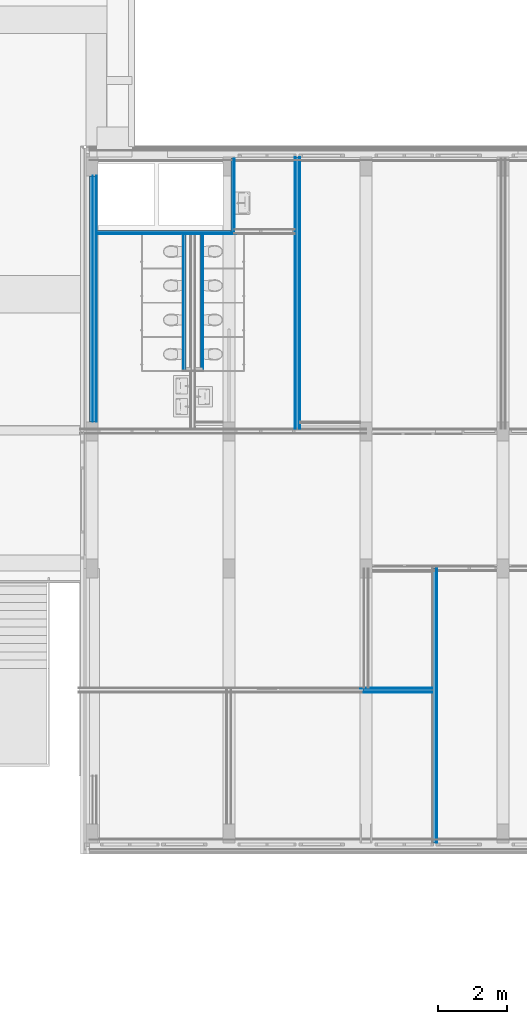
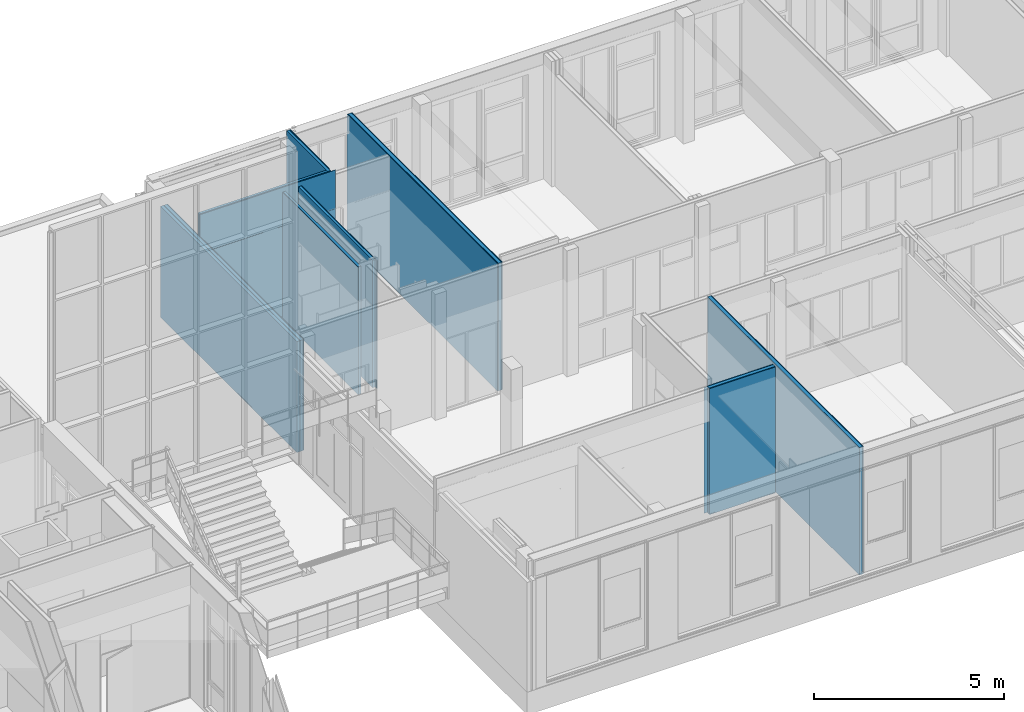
# One storey, part 52 of 94: 30 building element parts, 8 elements without a shape of their own.
"""IFC2X3 building model written with IfcOpenShell, lengths in millimetres."""

import ifcopenshell
import ifcopenshell.guid

model = None  # the IFC model being written
_history = None  # IfcOwnerHistory: only IFC2X3 demands one
_inside = {}  # id of a spatial element -> (the spatial element, [elements in it])
_under = {}  # id of a project, library or spatial element -> (it, [spatial elements below it])
_declared = {}  # id of a project -> (the project, [libraries it declares])
_typed = {}  # id of a type object -> (the type object, [elements of that type])
_made_of = {}  # id of a material, layer set ... -> (it, [elements and type objects made of it])


def new_model(schema):
    """Start an empty IFC model of exactly this schema.

    Asked for "IFC4X3", IfcOpenShell would pick the latest addendum, in which some entities
    have other attributes; the version numbers below select the first issue.
    IFC2X3 requires an IfcOwnerHistory on every rooted entity: one is made here for all.
    """
    global model, _history
    if schema == "IFC4X3":
        model = ifcopenshell.file(schema_version=(4, 3, 0, 0))
    else:
        model = ifcopenshell.file(schema=schema)
    _inside.clear()
    _under.clear()
    _declared.clear()
    _typed.clear()
    _made_of.clear()
    _history = None
    if model.schema == "IFC2X3":
        org = make("IfcOrganization", Name="unknown")
        user = make(
            "IfcPersonAndOrganization",
            ThePerson=make("IfcPerson", FamilyName="unknown"),
            TheOrganization=org,
        )
        app = make(
            "IfcApplication",
            ApplicationDeveloper=org,
            Version="unknown",
            ApplicationFullName="unknown",
            ApplicationIdentifier="unknown",
        )
        _history = make(
            "IfcOwnerHistory",
            OwningUser=user,
            OwningApplication=app,
            ChangeAction="ADDED",
            CreationDate=0,
        )
    return model


def make(cls, **values):
    """One entity of the class cls with the attributes given. An attribute that is None is left unset."""
    return model.create_entity(
        cls, **{name: value for name, value in values.items() if value is not None}
    )


def entity(cls, *values):
    """Any entity or typed value of the class cls, its attributes in the order of the schema. None: left unset."""
    e = model.create_entity(cls)
    for i, value in enumerate(values):
        if value is not None:
            e[i] = value
    return e


def rooted(cls, **values):
    """An entity with a GlobalId (a new one), such as an element, a storey or a relation."""
    return make(cls, GlobalId=ifcopenshell.guid.new(), OwnerHistory=_history, **values)


def si_unit(unit_type, name, prefix=None):
    """IfcSIUnit, for example si_unit("LENGTHUNIT", "METRE", prefix="MILLI")."""
    return make("IfcSIUnit", UnitType=unit_type, Prefix=prefix, Name=name)


def converted_unit(unit_type, name, factor, base, dimensions=None, offset=None):
    """IfcConversionBasedUnit, such as the inch: factor (a typed value) times the base unit."""
    return make(
        "IfcConversionBasedUnit"
        if offset is None
        else "IfcConversionBasedUnitWithOffset",
        ConversionOffset=offset,
        Dimensions=None
        if dimensions is None
        else entity("IfcDimensionalExponents", *dimensions),
        UnitType=unit_type,
        Name=name,
        ConversionFactor=make(
            "IfcMeasureWithUnit", ValueComponent=factor, UnitComponent=base
        ),
    )


def derived_unit(unit_type, elements):
    """IfcDerivedUnit: a product of units, each with its exponent."""
    return make(
        "IfcDerivedUnit",
        Elements=[
            make("IfcDerivedUnitElement", Unit=unit, Exponent=power)
            for unit, power in elements
        ],
        UnitType=unit_type,
    )


def money_unit(currency):
    """IfcMonetaryUnit."""
    return make("IfcMonetaryUnit", Currency=currency)


def assignment(units):
    """IfcUnitAssignment: the units of a project."""
    return None if units is None else make("IfcUnitAssignment", Units=units)


def point(xyz):
    """IfcCartesianPoint."""
    return None if xyz is None else make("IfcCartesianPoint", Coordinates=xyz)


def direction(xyz):
    """IfcDirection."""
    return None if xyz is None else make("IfcDirection", DirectionRatios=xyz)


def frame(location, z_axis=None, x_axis=None):
    """IfcAxis2Placement3D, a coordinate frame: its origin and axes. An axis left out is left unset."""
    return make(
        "IfcAxis2Placement3D",
        Location=point(location),
        Axis=direction(z_axis),
        RefDirection=direction(x_axis),
    )


def origin_with_axes():
    """The frame at (0, 0, 0) with the z axis (0, 0, 1) and the x axis (1, 0, 0) written out."""
    return frame((0.0, 0.0, 0.0), z_axis=(0.0, 0.0, 1.0), x_axis=(1.0, 0.0, 0.0))


def place(relative_to, where):
    """IfcLocalPlacement: puts the frame where relative to a parent placement (None: the world)."""
    return make(
        "IfcLocalPlacement", PlacementRelTo=relative_to, RelativePlacement=where
    )


def context(
    kind, dimensions, precision=None, world=None, true_north=None, identifier=None
):
    """IfcGeometricRepresentationContext, for example the 3D "Model" context."""
    return make(
        "IfcGeometricRepresentationContext",
        ContextIdentifier=identifier,
        ContextType=kind,
        CoordinateSpaceDimension=dimensions,
        Precision=precision,
        WorldCoordinateSystem=world,
        TrueNorth=true_north,
    )


def subcontext(parent, identifier, kind, view, scale=None):
    """IfcGeometricRepresentationSubContext, for example "Body" below "Model"."""
    return make(
        "IfcGeometricRepresentationSubContext",
        ContextIdentifier=identifier,
        ContextType=kind,
        ParentContext=parent,
        TargetScale=scale,
        TargetView=view,
    )


def project(units=None, contexts=None):
    """IfcProject with its units and contexts."""
    return rooted(
        "IfcProject",
        Name="project",
        RepresentationContexts=contexts,
        UnitsInContext=assignment(units),
    )


def spatial(cls, under=None, at=None, **own):
    """A site, building, storey or space (cls), placed at a placement, below another one or the project."""
    s = rooted(cls, ObjectPlacement=at, **own)
    if under is not None:
        _under.setdefault(under.id(), (under, []))[1].append(s)
    return s


def faces_of(points, faces, orient=None, outer=None):
    """IfcFace entities. A face is a list of loops; a loop is a list of indices into points, from 0.

    orient and outer hold one flag for each loop. By default every Orientation is true, the
    first loop of a face is its IfcFaceOuterBound and the others are IfcFaceBound.
    """
    made = []
    for i, loops in enumerate(faces):
        bounds = []
        for j, loop in enumerate(loops):
            is_outer = j == 0 if outer is None else outer[i][j]
            bounds.append(
                make(
                    "IfcFaceOuterBound" if is_outer else "IfcFaceBound",
                    Bound=make("IfcPolyLoop", Polygon=[points[k] for k in loop]),
                    Orientation=True if orient is None else orient[i][j],
                )
            )
        made.append(make("IfcFace", Bounds=bounds))
    return made


def faceted_brep(points, faces, orient=None, outer=None, voids=None):
    """IfcFacetedBrep: a solid bounded by flat faces; with voids (closed shells), ...WithVoids."""
    shared = [point(p) for p in points]
    hull = make("IfcClosedShell", CfsFaces=faces_of(shared, faces, orient, outer))
    if voids is None:
        return make("IfcFacetedBrep", Outer=hull)
    return make(
        "IfcFacetedBrepWithVoids",
        Outer=hull,
        Voids=[
            make(cls, CfsFaces=faces_of(shared, fs, o, b)) for cls, fs, o, b in voids
        ],
    )


def shape(context_of_items, identifier, shape_type, items):
    """IfcShapeRepresentation: the items that make up one representation, for example the "Body"."""
    return make(
        "IfcShapeRepresentation",
        ContextOfItems=context_of_items,
        RepresentationIdentifier=identifier,
        RepresentationType=shape_type,
        Items=items,
    )


def material(Name=None, Category=None):
    """IfcMaterial."""
    return make("IfcMaterial", Name=Name, Category=Category)


def made_of(thing, what):
    """Note that an element or type object is made of a material, layer set ...; save() writes the relation."""
    if what is not None:
        _made_of.setdefault(what.id(), (what, []))[1].append(thing)
    return thing


def type_object(cls, material=None, **own):
    """A type object (cls), such as IfcWallType, which elements share."""
    return made_of(rooted(cls, **own), material)


def element(
    cls,
    number,
    at=None,
    inside=None,
    cuts=None,
    type_object=None,
    material=None,
    context=None,
    identifier="Body",
    shape_type=None,
    held_by="IfcProductDefinitionShape",
    body=None,
    shapes=None,
    **own,
):
    """One element of the class cls, such as IfcWall. Its Tag is "e" and its number.

    at: its placement. inside: the storey or other place that contains it. cuts: it is an
    opening in that element (IfcRelVoidsElement). A single representation is given by context,
    identifier, shape_type and body (its items); several are given by shapes. held_by: the class
    of the entity that holds the representations. save() writes the other relations.
    """
    e = rooted(cls, Tag="e%d" % number, ObjectPlacement=at, **own)
    if body is not None:
        shapes = [shape(context, identifier, shape_type, body)]
    if shapes is not None:
        e.Representation = make(held_by, Representations=shapes)
    if inside is not None:
        _inside.setdefault(inside.id(), (inside, []))[1].append(e)
    if cuts is not None:
        rooted(
            "IfcRelVoidsElement", RelatingBuildingElement=cuts, RelatedOpeningElement=e
        )
    if type_object is not None:
        _typed.setdefault(type_object.id(), (type_object, []))[1].append(e)
    return made_of(e, material)


def aggregate(whole, parts):
    """IfcRelAggregates: a whole, such as a stair, and the parts it consists of."""
    return rooted("IfcRelAggregates", RelatingObject=whole, RelatedObjects=parts)


def save(model, path):
    """Write the relations noted so far, then the file.

    IfcRelAggregates (storeys below a building ...), IfcRelContainedInSpatialStructure (elements
    in a storey), IfcRelDefinesByType, IfcRelAssociatesMaterial and IfcRelDeclares: one each for
    every whole, place, type object, material and project.
    """
    for whole, parts in _under.values():
        aggregate(whole, parts)
    for where, things in _inside.values():
        rooted(
            "IfcRelContainedInSpatialStructure",
            RelatedElements=things,
            RelatingStructure=where,
        )
    for kind, things in _typed.values():
        rooted("IfcRelDefinesByType", RelatedObjects=things, RelatingType=kind)
    for what, things in _made_of.values():
        rooted("IfcRelAssociatesMaterial", RelatedObjects=things, RelatingMaterial=what)
    for by, libraries in _declared.values():
        rooted("IfcRelDeclares", RelatingContext=by, RelatedDefinitions=libraries)
    model.write(path)


model = new_model("IFC2X3")

# Units and contexts
model_context = context("Model", 3, precision=0.01, world=origin_with_axes(), true_north=direction((0.0, 1.0)))
body_context = subcontext(model_context, "Body", "Model", "MODEL_VIEW")
ifc_project = project(units=[si_unit("LENGTHUNIT", "METRE", prefix="MILLI"), si_unit("AREAUNIT", "SQUARE_METRE"), si_unit("VOLUMEUNIT", "CUBIC_METRE"), converted_unit("PLANEANGLEUNIT", "DEGREE", entity("IfcPlaneAngleMeasure", 0.0174532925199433), si_unit("PLANEANGLEUNIT", "RADIAN"), dimensions=[0, 0, 0, 0, 0, 0, 0]), money_unit("EUR"), converted_unit("TIMEUNIT", "Year", entity("IfcTimeMeasure", 31557600.0), si_unit("TIMEUNIT", "SECOND"), dimensions=[0, 0, 1, 0, 0, 0, 0]), si_unit("MASSUNIT", "GRAM", prefix="KILO"), si_unit("THERMODYNAMICTEMPERATUREUNIT", "DEGREE_CELSIUS"), si_unit("LUMINOUSINTENSITYUNIT", "LUMEN"), si_unit("ENERGYUNIT", "JOULE", prefix="MEGA"), derived_unit("THERMALCONDUCTANCEUNIT", [(si_unit("POWERUNIT", "WATT"), 1), (si_unit("LENGTHUNIT", "METRE"), -1), (si_unit("THERMODYNAMICTEMPERATUREUNIT", "KELVIN"), -1)]), derived_unit("SPECIFICHEATCAPACITYUNIT", [(si_unit("ENERGYUNIT", "JOULE"), 1), (si_unit("MASSUNIT", "GRAM", prefix="KILO"), -1), (si_unit("THERMODYNAMICTEMPERATUREUNIT", "KELVIN"), -1)]), derived_unit("MASSDENSITYUNIT", [(si_unit("MASSUNIT", "GRAM", prefix="KILO"), 1), (si_unit("VOLUMEUNIT", "CUBIC_METRE"), -1)])], contexts=[model_context])

# Site, building, storey
site_placement = place(None, origin_with_axes())
site = spatial("IfcSite", under=ifc_project, at=site_placement, Name="<site naam>", CompositionType="ELEMENT")
building_placement = place(site_placement, origin_with_axes())
building = spatial("IfcBuilding", under=site, at=building_placement, Name="<Naam gebouw>", CompositionType="ELEMENT")
storey_placement = place(building_placement, frame((0.0, 0.0, 4250.0), z_axis=(0.0, 0.0, 1.0), x_axis=(1.0, 0.0, 0.0)))
storey = spatial("IfcBuildingStorey", under=building, at=storey_placement, Name="01 1e verdieping", CompositionType="ELEMENT", Elevation=4250.0)

# Wall, building element parts
wall_type_1 = type_object("IfcWallType", Name="MS-01 GF 150 ECO DGS/2.100.2.A 150", PredefinedType="NOTDEFINED")
wall_1_placement = place(storey_placement, frame((17999.93840291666, 19997.99999999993, 0.0), z_axis=(0.0, 0.0, 1.0), x_axis=(0.0, -1.0, 0.0)))
wall_1 = element("IfcWall", 1, at=wall_1_placement, inside=storey, type_object=wall_type_1, Name="22_Binnenwand_MS-01")
ifc_material_1 = material(Name="gipsplaat")
building_element_part_1_placement = place(wall_1_placement, origin_with_axes())
building_element_part_1 = element("IfcBuildingElementPart", 2, at=building_element_part_1_placement, material=ifc_material_1, Name="gipsplaat", context=body_context, shape_type="Brep", body=[
    faceted_brep([(0.0, 50.00000000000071, 4100.0), (0.0, 62.5, 4100.0), (0.0, 62.5, 0.0), (0.0, 50.00000000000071, 0.0), (7922.999999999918, 62.5, 4100.0), (7922.999999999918, 50.00000000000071, 4100.0), (7922.999999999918, 62.5, 0.0), (7922.999999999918, 50.00000000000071, 0.0)], [[[0, 1, 2, 3]], [[4, 1, 0, 5]], [[1, 4, 6, 2]], [[2, 6, 7, 3]], [[5, 0, 3, 7]], [[4, 5, 7, 6]]]),
])
building_element_part_2_placement = place(wall_1_placement, origin_with_axes())
building_element_part_2 = element("IfcBuildingElementPart", 3, at=building_element_part_2_placement, material=ifc_material_1, Name="gipsplaat", context=body_context, shape_type="Brep", body=[
    faceted_brep([(0.0, 62.5, 4100.0), (0.0, 74.99999999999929, 4100.0), (0.0, 74.99999999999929, 0.0), (0.0, 62.5, 0.0), (7922.999999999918, 74.99999999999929, 4100.0), (7922.999999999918, 62.5, 4100.0), (7922.999999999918, 74.99999999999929, 0.0), (7922.999999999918, 62.5, 0.0)], [[[0, 1, 2, 3]], [[4, 1, 0, 5]], [[1, 4, 6, 2]], [[2, 6, 7, 3]], [[5, 0, 3, 7]], [[4, 5, 7, 6]]]),
])
ifc_material_2 = material(Name="isolatie_steenwol LSW")
building_element_part_3_placement = place(wall_1_placement, origin_with_axes())
building_element_part_3 = element("IfcBuildingElementPart", 4, at=building_element_part_3_placement, material=ifc_material_2, Name="isolatie_steenwol LSW", context=body_context, shape_type="Brep", body=[
    faceted_brep([(0.0, -50.00000000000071, 4100.0), (0.0, 50.00000000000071, 4100.0), (0.0, 50.00000000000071, 0.0), (0.0, -50.00000000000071, 0.0), (7922.999999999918, 50.00000000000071, 4100.0), (7922.999999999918, -50.00000000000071, 4100.0), (7922.999999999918, 50.00000000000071, 0.0), (7922.999999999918, -50.00000000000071, 0.0)], [[[0, 1, 2, 3]], [[4, 1, 0, 5]], [[1, 4, 6, 2]], [[2, 6, 7, 3]], [[5, 0, 3, 7]], [[4, 5, 7, 6]]]),
])
building_element_part_4_placement = place(wall_1_placement, origin_with_axes())
building_element_part_4 = element("IfcBuildingElementPart", 5, at=building_element_part_4_placement, material=ifc_material_1, Name="gipsplaat", context=body_context, shape_type="Brep", body=[
    faceted_brep([(0.0, -74.99999999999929, 4100.0), (0.0, -62.5, 4100.0), (0.0, -62.5, 0.0), (0.0, -74.99999999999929, 0.0), (7922.999999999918, -62.5, 4100.0), (7922.999999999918, -74.99999999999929, 4100.0), (7922.999999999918, -62.5, 0.0), (7922.999999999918, -74.99999999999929, 0.0)], [[[0, 1, 2, 3]], [[4, 1, 0, 5]], [[1, 4, 6, 2]], [[2, 6, 7, 3]], [[5, 0, 3, 7]], [[4, 5, 7, 6]]]),
])
building_element_part_5_placement = place(wall_1_placement, origin_with_axes())
building_element_part_5 = element("IfcBuildingElementPart", 6, at=building_element_part_5_placement, material=ifc_material_1, Name="gipsplaat", context=body_context, shape_type="Brep", body=[
    faceted_brep([(0.0, -62.5, 4100.0), (0.0, -50.00000000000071, 4100.0), (0.0, -50.00000000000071, 0.0), (0.0, -62.5, 0.0), (7922.999999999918, -50.00000000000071, 4100.0), (7922.999999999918, -62.5, 4100.0), (7922.999999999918, -50.00000000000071, 0.0), (7922.999999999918, -62.5, 0.0)], [[[0, 1, 2, 3]], [[4, 1, 0, 5]], [[1, 4, 6, 2]], [[2, 6, 7, 3]], [[5, 0, 3, 7]], [[4, 5, 7, 6]]]),
])
aggregate(wall_1, [building_element_part_1, building_element_part_2, building_element_part_3, building_element_part_4, building_element_part_5])

wall_2_placement = place(storey_placement, frame((22000.00660805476, 4524.999967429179, 0.0), z_axis=(0.0, 0.0, 1.0), x_axis=(-1.0, 0.0, 0.0)))
wall_2 = element("IfcWall", 7, at=wall_2_placement, inside=storey, type_object=wall_type_1, Name="22_Binnenwand_MS-01")
building_element_part_6_placement = place(wall_2_placement, origin_with_axes())
building_element_part_6 = element("IfcBuildingElementPart", 8, at=building_element_part_6_placement, material=ifc_material_1, Name="gipsplaat", context=body_context, shape_type="Brep", body=[
    faceted_brep([(2075.006608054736, 137.5000000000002, 19.99999999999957), (75.00021473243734, 137.5000000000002, 19.99999999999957), (75.00019805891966, 137.5000000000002, 0.0), (2075.006608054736, 137.5000000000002, 0.0), (75.00021473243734, 150.0000000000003, 19.99999999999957), (2075.006608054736, 149.9516873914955, 19.99999999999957), (2075.006608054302, 149.9999999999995, 19.99999999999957), (75.0002159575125, 150.0000000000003, 0.0), (2075.006608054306, 149.9999999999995, 0.0), (2075.006608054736, 149.9516873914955, 0.0)], [[[0, 1, 2, 3]], [[4, 1, 0, 5, 6]], [[1, 4, 7, 2]], [[8, 9, 3, 2, 7]], [[5, 0, 3, 9]], [[6, 5, 9, 8]], [[4, 6, 8, 7]]]),
    faceted_brep([(75.00021473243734, 150.0000000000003, 22.99999999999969), (75.00021473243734, 137.5000000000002, 22.99999999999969), (75.00019805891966, 137.5000000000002, 4050.000000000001), (75.0002159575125, 150.0000000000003, 4050.000000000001), (2075.006608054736, 137.5000000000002, 22.99999999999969), (2075.006608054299, 149.9999999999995, 22.99999999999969), (2075.006608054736, 149.9516873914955, 22.99999999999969), (2075.006608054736, 137.5000000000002, 4050.000000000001), (2075.006608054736, 149.9516873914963, 4050.000000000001), (2075.006608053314, 150.0000000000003, 4050.000000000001)], [[[0, 1, 2, 3]], [[4, 1, 0, 5, 6]], [[1, 4, 7, 2]], [[2, 7, 8, 9, 3]], [[5, 0, 3, 9]], [[6, 5, 9, 8]], [[4, 6, 8, 7]]]),
])
building_element_part_7_placement = place(wall_2_placement, origin_with_axes())
building_element_part_7 = element("IfcBuildingElementPart", 9, at=building_element_part_7_placement, material=ifc_material_1, Name="gipsplaat", context=body_context, shape_type="Brep", body=[
    faceted_brep([(2075.006608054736, 125.0, 19.99999999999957), (75.00021473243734, 125.0, 19.99999999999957), (75.00018016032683, 125.0, 0.0), (2075.006608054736, 125.0, 0.0), (75.00021473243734, 137.5000000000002, 19.99999999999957), (2075.006608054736, 137.5000000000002, 19.99999999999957), (75.00019805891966, 137.5000000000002, 0.0), (2075.006608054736, 137.5000000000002, 0.0)], [[[0, 1, 2, 3]], [[4, 1, 0, 5]], [[1, 4, 6, 2]], [[6, 7, 3, 2]], [[5, 0, 3, 7]], [[4, 5, 7, 6]]]),
    faceted_brep([(75.00021473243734, 137.5000000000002, 22.99999999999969), (75.00021473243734, 125.0, 22.99999999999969), (75.00018016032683, 125.0, 4050.000000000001), (75.00019805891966, 137.5000000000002, 4050.000000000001), (2075.006608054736, 125.0, 22.99999999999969), (2075.006608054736, 137.5000000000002, 22.99999999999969), (2075.006608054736, 125.0, 4050.000000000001), (2075.006608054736, 137.5000000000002, 4050.000000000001)], [[[0, 1, 2, 3]], [[4, 1, 0, 5]], [[1, 4, 6, 2]], [[6, 7, 3, 2]], [[5, 0, 3, 7]], [[4, 5, 7, 6]]]),
])
building_element_part_8_placement = place(wall_2_placement, origin_with_axes())
building_element_part_8 = element("IfcBuildingElementPart", 10, at=building_element_part_8_placement, material=ifc_material_1, Name="gipsplaat", context=body_context, shape_type="Brep", body=[
    faceted_brep([(2075.006608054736, 12.50000000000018, 19.99999999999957), (75.00021473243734, 12.50000000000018, 19.99999999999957), (75.00001907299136, 12.50000000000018, 0.0), (2075.006608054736, 12.50000000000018, 0.0), (75.00021473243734, 25.00000000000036, 19.99999999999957), (2075.006608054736, 24.95166142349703, 19.99999999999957), (2175.006608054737, 24.88720306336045, 19.99999999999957), (2175.006608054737, 24.99999999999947, 19.99999999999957), (75.0000369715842, 25.00000000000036, 0.0), (2175.006608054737, 24.88720306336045, 0.0), (2075.006608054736, 24.95166142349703, 0.0), (2175.006608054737, 24.99999999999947, 0.0)], [[[0, 1, 2, 3]], [[4, 1, 0, 5, 6, 7]], [[1, 4, 8, 2]], [[9, 10, 3, 2, 8, 11]], [[5, 0, 3, 10]], [[6, 5, 10, 9]], [[7, 6, 9, 11]], [[4, 7, 11, 8]]]),
    faceted_brep([(75.00021473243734, 25.00000000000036, 22.99999999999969), (75.00021473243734, 12.50000000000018, 22.99999999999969), (75.00001907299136, 12.50000000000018, 4050.000000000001), (75.0000369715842, 25.00000000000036, 4050.000000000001), (2075.006608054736, 12.50000000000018, 22.99999999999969), (2175.006608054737, 24.99999999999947, 22.99999999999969), (2175.006608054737, 24.88720306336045, 22.99999999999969), (2075.006608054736, 24.95166142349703, 22.99999999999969), (2075.006608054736, 12.50000000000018, 4050.000000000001), (2075.006608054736, 24.95166142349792, 4050.000000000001), (2175.006608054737, 24.88720306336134, 4050.000000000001), (2175.006608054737, 25.00000000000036, 4050.000000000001)], [[[0, 1, 2, 3]], [[4, 1, 0, 5, 6, 7]], [[1, 4, 8, 2]], [[8, 9, 10, 11, 3, 2]], [[5, 0, 3, 11]], [[6, 5, 11, 10]], [[7, 6, 10, 9]], [[4, 7, 9, 8]]]),
])
building_element_part_9_placement = place(wall_2_placement, origin_with_axes())
building_element_part_9 = element("IfcBuildingElementPart", 11, at=building_element_part_9_placement, material=ifc_material_2, Name="isolatie_steenwol LSW", context=body_context, shape_type="Brep", body=[
    faceted_brep([(2075.006608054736, 24.99999999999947, 19.99999999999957), (75.00021473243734, 25.00000000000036, 19.99999999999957), (75.0000369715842, 25.00000000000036, 0.0), (2075.006608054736, 24.99999999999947, 0.0), (75.00021473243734, 125.0, 19.99999999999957), (2075.006608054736, 125.0, 19.99999999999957), (75.00018016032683, 125.0, 0.0), (2075.006608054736, 125.0, 0.0)], [[[0, 1, 2, 3]], [[4, 1, 0, 5]], [[1, 4, 6, 2]], [[7, 3, 2, 6]], [[5, 0, 3, 7]], [[4, 5, 7, 6]]]),
    faceted_brep([(75.00021473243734, 125.0, 22.99999999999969), (75.00021473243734, 25.00000000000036, 22.99999999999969), (75.0000369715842, 25.00000000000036, 4050.000000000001), (75.00018016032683, 125.0, 4050.000000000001), (2075.006608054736, 24.99999999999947, 22.99999999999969), (2075.006608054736, 125.0, 22.99999999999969), (2075.006608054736, 25.00000000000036, 4050.000000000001), (2075.006608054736, 125.0, 4050.000000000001)], [[[0, 1, 2, 3]], [[4, 1, 0, 5]], [[1, 4, 6, 2]], [[2, 6, 7, 3]], [[5, 0, 3, 7]], [[4, 5, 7, 6]]]),
])
building_element_part_10_placement = place(wall_2_placement, origin_with_axes())
building_element_part_10 = element("IfcBuildingElementPart", 12, at=building_element_part_10_placement, material=ifc_material_1, Name="gipsplaat", context=body_context, shape_type="Brep", body=[
    faceted_brep([(1925.006608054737, 0.0, 0.0), (1925.006608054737, 0.0, 19.99999999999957), (75.00021473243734, 0.0, 19.99999999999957), (75.00000117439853, 0.0, 0.0), (1925.006608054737, 5.398728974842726, 0.0), (1925.006608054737, 5.398728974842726, 19.99999999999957), (2075.006608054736, 12.50000000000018, 19.99999999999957), (75.00021473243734, 12.50000000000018, 19.99999999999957), (2075.006608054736, 5.398728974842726, 19.99999999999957), (75.00001907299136, 12.50000000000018, 0.0), (2075.006608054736, 12.50000000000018, 0.0), (2075.006608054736, 5.398728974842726, 0.0)], [[[0, 1, 2, 3]], [[4, 5, 1, 0]], [[6, 7, 2, 1, 5, 8]], [[3, 2, 7, 9]], [[10, 11, 4, 0, 3, 9]], [[11, 8, 5, 4]], [[9, 7, 6, 10]], [[10, 6, 8, 11]]]),
    faceted_brep([(75.00001907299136, 12.50000000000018, 4050.000000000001), (75.00021473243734, 12.50000000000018, 22.99999999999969), (75.00021473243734, 0.0, 22.99999999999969), (75.00000117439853, 0.0, 4050.000000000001), (2075.006608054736, 12.50000000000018, 4050.000000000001), (2075.006608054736, 12.50000000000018, 22.99999999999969), (1925.006608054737, 5.398728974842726, 22.99999999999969), (1925.006608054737, 0.0, 22.99999999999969), (2075.006608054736, 5.398728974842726, 22.99999999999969), (1925.006608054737, 0.0, 4050.000000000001), (1925.006608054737, 5.398728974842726, 4050.000000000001), (2075.006608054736, 5.398728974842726, 4050.000000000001)], [[[0, 1, 2, 3]], [[4, 5, 1, 0]], [[6, 7, 2, 1, 5, 8]], [[3, 2, 7, 9]], [[3, 9, 10, 11, 4, 0]], [[11, 8, 5, 4]], [[9, 7, 6, 10]], [[10, 6, 8, 11]]]),
])
aggregate(wall_2, [building_element_part_6, building_element_part_7, building_element_part_8, building_element_part_9, building_element_part_10])

wall_3_placement = place(storey_placement, frame((22000.01157608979, 7995.39108428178, 0.0), z_axis=(0.0, 0.0, 1.0), x_axis=(-1.431887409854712e-06, -0.9999999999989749, 0.0)))
wall_3 = element("IfcWall", 13, at=wall_3_placement, inside=storey, type_object=wall_type_1, Name="22_Binnenwand_MS-01")
building_element_part_11_placement = place(wall_3_placement, origin_with_axes())
building_element_part_11 = element("IfcBuildingElementPart", 14, at=building_element_part_11_placement, material=ifc_material_1, Name="gipsplaat", context=body_context, shape_type="Brep", body=[
    faceted_brep([(0.0, 62.5, 4100.0), (0.0, 74.99999999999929, 4100.0), (0.0, 74.99999999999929, 0.0), (0.0, 62.5, 0.0), (7995.391083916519, 74.99999999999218, 4100.0), (7995.391083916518, 62.49999999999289, 4100.0), (7995.391083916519, 74.99999999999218, 0.0), (7995.391083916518, 62.49999999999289, 0.0)], [[[0, 1, 2, 3]], [[4, 1, 0, 5]], [[1, 4, 6, 2]], [[2, 6, 7, 3]], [[5, 0, 3, 7]], [[4, 5, 7, 6]]]),
])
building_element_part_12_placement = place(wall_3_placement, origin_with_axes())
building_element_part_12 = element("IfcBuildingElementPart", 15, at=building_element_part_12_placement, material=ifc_material_2, Name="isolatie_steenwol LSW", context=body_context, shape_type="Brep", body=[
    faceted_brep([(0.0, -50.00000000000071, 4100.0), (0.0, 50.00000000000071, 4100.0), (0.0, 50.00000000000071, 0.0), (0.0, -50.00000000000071, 0.0), (7995.391083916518, 49.99999999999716, 4100.0), (7995.391083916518, -50.00000000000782, 4100.0), (7995.391083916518, 49.99999999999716, 0.0), (7995.391083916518, -50.00000000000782, 0.0)], [[[0, 1, 2, 3]], [[4, 1, 0, 5]], [[1, 4, 6, 2]], [[2, 6, 7, 3]], [[5, 0, 3, 7]], [[4, 5, 7, 6]]]),
])
building_element_part_13_placement = place(wall_3_placement, origin_with_axes())
building_element_part_13 = element("IfcBuildingElementPart", 16, at=building_element_part_13_placement, material=ifc_material_1, Name="gipsplaat", context=body_context, shape_type="Brep", body=[
    faceted_brep([(0.0, 50.00000000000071, 4100.0), (0.0, 62.5, 4100.0), (0.0, 62.5, 0.0), (0.0, 50.00000000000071, 0.0), (7995.391083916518, 62.49999999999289, 4100.0), (7995.391083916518, 49.99999999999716, 4100.0), (7995.391083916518, 62.49999999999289, 0.0), (7995.391083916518, 49.99999999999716, 0.0)], [[[0, 1, 2, 3]], [[4, 1, 0, 5]], [[1, 4, 6, 2]], [[2, 6, 7, 3]], [[5, 0, 3, 7]], [[4, 5, 7, 6]]]),
])
aggregate(wall_3, [building_element_part_11, building_element_part_12, building_element_part_13])

wall_type_2 = type_object("IfcWallType", Name="MS-03 GF 100 HTT DGS V/100.2 100", PredefinedType="NOTDEFINED")
wall_4_placement = place(storey_placement, frame((14750.00000000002, 17750.0, 0.0), z_axis=(0.0, 0.0, 1.0), x_axis=(0.0, -1.0, 0.0)))
wall_4 = element("IfcWall", 17, at=wall_4_placement, inside=storey, type_object=wall_type_2, Name="22_Binnenwand_MS-03")
building_element_part_14_placement = place(wall_4_placement, origin_with_axes())
building_element_part_14 = element("IfcBuildingElementPart", 18, at=building_element_part_14_placement, material=ifc_material_2, Name="isolatie_steenwol LSW", context=body_context, shape_type="Brep", body=[
    faceted_brep([(0.0, -74.99999999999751, 4100.0), (0.0, 0.0, 4100.0), (0.0, 0.0, 0.0), (0.0, -74.99999999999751, 0.0), (3975.211905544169, 0.0, 4100.0), (3975.243496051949, -75.00000000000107, 4100.0), (3975.211905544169, 0.0, 0.0), (3975.243496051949, -75.00000000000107, 0.0)], [[[0, 1, 2, 3]], [[4, 1, 0, 5]], [[1, 4, 6, 2]], [[2, 6, 7, 3]], [[5, 0, 3, 7]], [[4, 5, 7, 6]]]),
])
building_element_part_15_placement = place(wall_4_placement, origin_with_axes())
building_element_part_15 = element("IfcBuildingElementPart", 19, at=building_element_part_15_placement, material=ifc_material_1, Name="gipsplaat", context=body_context, shape_type="Brep", body=[
    faceted_brep([(0.0, -87.50000000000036, 4100.0), (0.0, -74.99999999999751, 4100.0), (0.0, -74.99999999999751, 0.0), (0.0, -87.50000000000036, 0.0), (3987.743497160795, -75.00000000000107, 4100.0), (3987.748762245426, -87.50000000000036, 4100.0), (3987.743497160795, -75.00000000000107, 0.0), (3987.748762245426, -87.50000000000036, 0.0)], [[[0, 1, 2, 3]], [[4, 1, 0, 5]], [[1, 4, 6, 2]], [[2, 6, 7, 3]], [[5, 0, 3, 7]], [[4, 5, 7, 6]]]),
])
aggregate(wall_4, [building_element_part_14, building_element_part_15])

wall_5_placement = place(storey_placement, frame((15150.00000000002, 17750.0, 0.0), z_axis=(0.0, 0.0, 1.0), x_axis=(0.0, -1.0, 0.0)))
wall_5 = element("IfcWall", 20, at=wall_5_placement, inside=storey, type_object=wall_type_2, Name="22_Binnenwand_MS-03")
building_element_part_16_placement = place(wall_5_placement, origin_with_axes())
building_element_part_16 = element("IfcBuildingElementPart", 21, at=building_element_part_16_placement, material=ifc_material_1, Name="gipsplaat", context=body_context, shape_type="Brep", body=[
    faceted_brep([(0.0, 87.50000000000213, 4100.0), (0.0, 99.99999999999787, 4100.0), (0.0, 99.99999999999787, 0.0), (0.0, 87.50000000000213, 0.0), (3987.501303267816, 99.99999999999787, 4100.0), (3987.506568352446, 87.50000000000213, 4100.0), (3987.501303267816, 99.99999999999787, 0.0), (3987.506568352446, 87.49999999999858, 0.0)], [[[0, 1, 2, 3]], [[4, 1, 0, 5]], [[1, 4, 6, 2]], [[2, 6, 7, 3]], [[5, 0, 3, 7]], [[4, 5, 7, 6]]]),
])
building_element_part_17_placement = place(wall_5_placement, origin_with_axes())
building_element_part_17 = element("IfcBuildingElementPart", 22, at=building_element_part_17_placement, material=ifc_material_1, Name="gipsplaat", context=body_context, shape_type="Brep", body=[
    faceted_brep([(0.0, 74.99999999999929, 4100.0), (0.0, 87.50000000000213, 4100.0), (0.0, 87.50000000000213, 0.0), (0.0, 74.99999999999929, 0.0), (3975.0065672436, 87.50000000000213, 4100.0), (3975.01183232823, 74.99999999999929, 4100.0), (3975.0065672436, 87.49999999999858, 0.0), (3975.01183232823, 74.99999999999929, 0.0)], [[[0, 1, 2, 3]], [[4, 1, 0, 5]], [[1, 4, 6, 2]], [[2, 6, 7, 3]], [[5, 0, 3, 7]], [[4, 5, 7, 6]]]),
])
building_element_part_18_placement = place(wall_5_placement, origin_with_axes())
building_element_part_18 = element("IfcBuildingElementPart", 23, at=building_element_part_18_placement, material=ifc_material_2, Name="isolatie_steenwol LSW", context=body_context, shape_type="Brep", body=[
    faceted_brep([(0.0, 0.0, 4100.0), (0.0, 74.99999999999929, 4100.0), (0.0, 74.99999999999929, 0.0), (0.0, 0.0, 0.0), (3900.011825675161, 74.99999999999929, 4100.0), (3900.043416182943, 0.0, 4100.0), (3900.011825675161, 74.99999999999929, 0.0), (3900.043416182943, 0.0, 0.0)], [[[0, 1, 2, 3]], [[4, 1, 0, 5]], [[1, 4, 6, 2]], [[2, 6, 7, 3]], [[5, 0, 3, 7]], [[4, 5, 7, 6]]]),
])
aggregate(wall_5, [building_element_part_16, building_element_part_17, building_element_part_18])

wall_type_3 = type_object("IfcWallType", Name="MS-04 GF 138 V/100.3.A 113", PredefinedType="NOTDEFINED")
wall_6_placement = place(storey_placement, frame((16175.00000000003, 17750.00000000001, 0.0), z_axis=(0.0, 0.0, 1.0), x_axis=(0.0, 1.0, 0.0)))
wall_6 = element("IfcWall", 24, at=wall_6_placement, inside=storey, type_object=wall_type_3, Name="22_Binnenwand_MS-04")
building_element_part_19_placement = place(wall_6_placement, origin_with_axes())
building_element_part_19 = element("IfcBuildingElementPart", 25, at=building_element_part_19_placement, material=ifc_material_1, Name="gipsplaat", context=body_context, shape_type="Brep", body=[
    faceted_brep([(12.50000000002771, 37.50000000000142, 0.0), (2204.999996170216, 37.50000000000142, 0.0), (2204.999996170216, 24.99999999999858, 0.0), (12.50000000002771, 24.99999999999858, 0.0), (12.50000000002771, 37.50000000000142, 4250.0), (2204.999996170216, 37.50000000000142, 4250.0), (2204.999996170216, 24.99999999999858, 4250.0), (12.50000000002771, 24.99999999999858, 4250.0)], [[[0, 1, 2, 3]], [[4, 5, 1, 0]], [[2, 1, 5, 6]], [[3, 2, 6, 7]], [[4, 0, 3, 7]], [[7, 6, 5, 4]]]),
])
building_element_part_20_placement = place(wall_6_placement, origin_with_axes())
building_element_part_20 = element("IfcBuildingElementPart", 26, at=building_element_part_20_placement, material=ifc_material_2, Name="isolatie_steenwol LSW", context=body_context, shape_type="Brep", body=[
    faceted_brep([(37.50000000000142, 112.5000000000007, 4250.0), (37.50000000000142, 37.49999999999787, 4250.0), (2204.999996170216, 37.50000000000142, 4250.0), (2204.999996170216, 112.5000000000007, 4250.0), (37.50000000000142, 37.49999999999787, 0.0), (37.50000000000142, 112.5000000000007, 0.0), (2204.999996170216, 37.50000000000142, 0.0), (2204.999996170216, 112.5000000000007, 0.0)], [[[0, 1, 2, 3]], [[4, 1, 0, 5]], [[1, 4, 6, 2]], [[6, 7, 3, 2]], [[5, 0, 3, 7]], [[4, 5, 7, 6]]]),
])
building_element_part_21_placement = place(wall_6_placement, origin_with_axes())
building_element_part_21 = element("IfcBuildingElementPart", 27, at=building_element_part_21_placement, material=ifc_material_1, Name="gipsplaat", context=body_context, shape_type="Brep", body=[
    faceted_brep([(2204.999996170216, 24.99999999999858, 0.0), (2204.999996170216, 12.49999999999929, 0.0), (125.0000000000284, 12.49999999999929, 0.0), (125.0000000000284, 24.99999999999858, 0.0), (2204.999996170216, 24.99999999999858, 4250.0), (2204.999996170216, 12.49999999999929, 4250.0), (125.0000000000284, 12.49999999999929, 4250.0), (125.0000000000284, 24.99999999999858, 4250.0)], [[[0, 1, 2, 3]], [[0, 4, 5, 1]], [[1, 5, 6, 2]], [[3, 2, 6, 7]], [[4, 0, 3, 7]], [[5, 4, 7, 6]]]),
])
building_element_part_22_placement = place(wall_6_placement, origin_with_axes())
building_element_part_22 = element("IfcBuildingElementPart", 28, at=building_element_part_22_placement, material=ifc_material_1, Name="gipsplaat", context=body_context, shape_type="Brep", body=[
    faceted_brep([(2204.999996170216, 12.49999999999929, 0.0), (2204.999996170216, 0.0, 0.0), (137.5000000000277, 0.0, 0.0), (137.5000000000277, 12.49999999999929, 0.0), (2204.999996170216, 12.49999999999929, 4250.0), (2204.999996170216, 0.0, 4250.0), (137.5000000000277, 0.0, 4250.0), (137.5000000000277, 12.49999999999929, 4250.0)], [[[0, 1, 2, 3]], [[0, 4, 5, 1]], [[1, 5, 6, 2]], [[3, 2, 6, 7]], [[4, 0, 3, 7]], [[5, 4, 7, 6]]]),
])
aggregate(wall_6, [building_element_part_19, building_element_part_20, building_element_part_21, building_element_part_22])

wall_type_4 = type_object("IfcWallType", Name="therm. voorzetwand 215mm 215", PredefinedType="NOTDEFINED")
wall_7_placement = place(storey_placement, frame((11935.00000055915, 19449.99996516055, 0.0), z_axis=(0.0, 0.0, 1.0), x_axis=(0.0, -1.0, 0.0)))
wall_7 = element("IfcWall", 29, at=wall_7_placement, inside=storey, type_object=wall_type_4, Name="22_Binnenwand_therm.")
building_element_part_23_placement = place(wall_7_placement, origin_with_axes())
building_element_part_23 = element("IfcBuildingElementPart", 30, at=building_element_part_23_placement, material=ifc_material_1, Name="gipsplaat", context=body_context, shape_type="Brep", body=[
    faceted_brep([(-3.483944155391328e-05, 202.5000000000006, 3569.999999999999), (-3.483944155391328e-05, 214.9999999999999, 3569.999999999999), (0.0, 214.9999999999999, 0.0), (0.0, 202.5000000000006, 0.0), (7175.000011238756, 215.0000000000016, 3569.999999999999), (7175.000011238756, 202.5000000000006, 3569.999999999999), (7174.999896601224, 215.0000000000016, 22.99999999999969), (1699.999962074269, 215.0000000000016, 22.99999999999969), (1699.999962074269, 215.0000000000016, 19.99999999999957), (7174.999896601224, 215.0000000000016, 19.99999999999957), (7174.999896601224, 215.0000000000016, 0.0), (7174.999896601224, 202.5000000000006, 0.0), (7174.999896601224, 202.5000000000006, 19.99999999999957), (1699.999962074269, 202.5000000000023, 19.99999999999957), (1699.999962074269, 202.5000000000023, 22.99999999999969), (7174.999896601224, 202.5000000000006, 22.99999999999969)], [[[0, 1, 2, 3]], [[4, 1, 0, 5]], [[1, 4, 6, 7, 8, 9, 10, 2]], [[3, 2, 10, 11]], [[5, 0, 3, 11, 12, 13, 14, 15]], [[4, 5, 15, 6]], [[14, 7, 6, 15]], [[13, 8, 7, 14]], [[12, 9, 8, 13]], [[10, 9, 12, 11]]]),
])
ifc_material_3 = material(Name="isolatie_steenwol")
building_element_part_24_placement = place(wall_7_placement, origin_with_axes())
building_element_part_24 = element("IfcBuildingElementPart", 31, at=building_element_part_24_placement, material=ifc_material_3, Name="isolatie_steenwol", context=body_context, shape_type="Brep", body=[
    faceted_brep([(-3.483944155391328e-05, 99.99999999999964, 3569.999999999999), (-3.483944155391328e-05, 189.9999999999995, 3569.999999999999), (0.0, 189.9999999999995, 0.0), (0.0, 99.99999999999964, 0.0), (7175.000011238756, 190.0000000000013, 3569.999999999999), (7175.000011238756, 100.0000000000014, 3569.999999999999), (7174.999896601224, 190.0000000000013, 22.99999999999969), (1699.999962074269, 190.0000000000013, 22.99999999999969), (1699.999962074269, 190.0000000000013, 19.99999999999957), (7174.999896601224, 190.0000000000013, 19.99999999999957), (7174.999896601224, 190.0000000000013, 0.0), (7174.999896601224, 100.0000000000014, 0.0), (7174.999896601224, 100.0000000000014, 19.99999999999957), (1699.999962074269, 100.0000000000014, 19.99999999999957), (1699.999962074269, 100.0000000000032, 22.99999999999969), (7174.999896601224, 100.0000000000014, 22.99999999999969)], [[[0, 1, 2, 3]], [[4, 1, 0, 5]], [[1, 4, 6, 7, 8, 9, 10, 2]], [[3, 2, 10, 11]], [[5, 0, 3, 11, 12, 13, 14, 15]], [[4, 5, 15, 6]], [[14, 7, 6, 15]], [[13, 8, 7, 14]], [[12, 9, 8, 13]], [[10, 9, 12, 11]]]),
])
building_element_part_25_placement = place(wall_7_placement, origin_with_axes())
building_element_part_25 = element("IfcBuildingElementPart", 32, at=building_element_part_25_placement, material=ifc_material_3, Name="isolatie_steenwol", context=body_context, shape_type="Brep", body=[
    faceted_brep([(-3.483944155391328e-05, 0.0, 3569.999999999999), (-3.483944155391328e-05, 89.99999999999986, 3569.999999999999), (0.0, 89.99999999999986, 0.0), (0.0, 0.0, 0.0), (7175.000011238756, 90.00000000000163, 3569.999999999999), (7175.000011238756, -6.769216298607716e-06, 3569.999999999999), (7174.999896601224, 90.00000000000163, 22.99999999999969), (1699.999962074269, 90.00000000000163, 22.99999999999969), (1699.999962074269, 90.00000000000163, 19.99999999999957), (7174.999896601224, 90.00000000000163, 19.99999999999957), (7174.999896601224, 90.00000000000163, 0.0), (7174.999896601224, 0.0, 0.0), (7174.999896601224, -4.207864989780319e-05, 19.99999999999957), (1699.999962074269, -4.207864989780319e-05, 19.99999999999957), (1699.999962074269, -4.207864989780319e-05, 22.99999999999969), (7174.999896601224, -4.207864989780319e-05, 22.99999999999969)], [[[0, 1, 2, 3]], [[4, 1, 0, 5]], [[1, 4, 6, 7, 8, 9, 10, 2]], [[3, 2, 10, 11]], [[5, 0, 3, 11, 12, 13, 14, 15]], [[4, 5, 15, 6]], [[14, 7, 6, 15]], [[13, 8, 7, 14]], [[12, 9, 8, 13]], [[10, 9, 12, 11]]]),
])
ifc_material_4 = material(Name="metal_stud")
building_element_part_26_placement = place(wall_7_placement, origin_with_axes())
building_element_part_26 = element("IfcBuildingElementPart", 33, at=building_element_part_26_placement, material=ifc_material_4, Name="metal_stud", context=body_context, shape_type="Brep", body=[
    faceted_brep([(-3.483944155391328e-05, 89.99999999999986, 3569.999999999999), (-3.483944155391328e-05, 99.99999999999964, 3569.999999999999), (0.0, 99.99999999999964, 0.0), (0.0, 89.99999999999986, 0.0), (7175.000011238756, 100.0000000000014, 3569.999999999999), (7175.000011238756, 90.00000000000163, 3569.999999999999), (7174.999896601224, 100.0000000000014, 22.99999999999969), (1699.999962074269, 100.0000000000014, 22.99999999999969), (1699.999962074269, 100.0000000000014, 19.99999999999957), (7174.999896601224, 100.0000000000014, 19.99999999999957), (7174.999896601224, 100.0000000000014, 0.0), (7174.999896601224, 90.00000000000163, 0.0), (7174.999896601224, 90.00000000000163, 19.99999999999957), (1699.999962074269, 90.00000000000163, 19.99999999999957), (1699.999962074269, 90.00000000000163, 22.99999999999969), (7174.999896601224, 90.00000000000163, 22.99999999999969)], [[[0, 1, 2, 3]], [[4, 1, 0, 5]], [[1, 4, 6, 7, 8, 9, 10, 2]], [[3, 2, 10, 11]], [[5, 0, 3, 11, 12, 13, 14, 15]], [[4, 5, 15, 6]], [[14, 7, 6, 15]], [[13, 8, 7, 14]], [[12, 9, 8, 13]], [[10, 9, 12, 11]]]),
])
aggregate(wall_7, [building_element_part_23, building_element_part_24, building_element_part_25, building_element_part_26])

wall_8_placement = place(storey_placement, frame((16175.00000000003, 17750.00000000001, 0.0), z_axis=(0.0, 0.0, 1.0), x_axis=(-1.0, 0.0, 0.0)))
wall_8 = element("IfcWall", 34, at=wall_8_placement, inside=storey, type_object=wall_type_3, Name="22_Binnenwand_MS-04")
building_element_part_27_placement = place(wall_8_placement, origin_with_axes())
building_element_part_27 = element("IfcBuildingElementPart", 35, at=building_element_part_27_placement, material=ifc_material_1, Name="gipsplaat", context=body_context, shape_type="Brep", body=[
    faceted_brep([(1525.000054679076, 0.0, 3000.0), (4025.00008275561, 0.0, 3000.0), (4024.999999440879, 0.0, 0.0), (-100.0000000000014, 0.0, 0.0), (-100.0000000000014, 0.0, 3000.0), (925.0000823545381, 0.0, 3000.0), (925.0000823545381, 0.0, 3040.0), (-100.0000000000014, 0.0, 3040.0), (-100.0000000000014, 0.0, 4250.0), (4024.999999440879, 0.0, 4250.0), (4025.00008275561, 0.0, 3040.0), (1525.000054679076, 0.0, 3040.0), (1525.000054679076, -5.398737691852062, 3000.0), (4025.00008275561, -5.398737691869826, 3000.0), (4025.00008275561, -5.398737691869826, 3040.0), (4024.999999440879, -12.50000000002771, 4250.0), (4024.999999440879, -12.50000000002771, 0.0), (-100.000000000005, -12.49999999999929, 0.0), (-100.000000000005, -5.398737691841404, 3000.0), (-100.000000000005, -12.49999999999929, 4250.0), (-100.000000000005, -5.398737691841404, 3040.0), (925.0000823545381, -5.39873769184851, 3000.0), (925.0000823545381, -5.39873769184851, 3040.0), (1525.000054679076, -5.398737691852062, 3040.0)], [[[0, 1, 2, 3, 4, 5, 6, 7, 8, 9, 10, 11]], [[1, 0, 12, 13]], [[14, 10, 9, 15, 16, 2, 1, 13]], [[16, 17, 3, 2]], [[18, 4, 3, 17, 19, 8, 7, 20]], [[4, 18, 21, 5]], [[6, 5, 21, 22]], [[20, 7, 6, 22]], [[9, 8, 19, 15]], [[11, 10, 14, 23]], [[0, 11, 23, 12]], [[14, 13, 12, 23]], [[15, 19, 17, 16]], [[18, 20, 22, 21]]]),
])
building_element_part_28_placement = place(wall_8_placement, origin_with_axes())
building_element_part_28 = element("IfcBuildingElementPart", 36, at=building_element_part_28_placement, material=ifc_material_1, Name="gipsplaat", context=body_context, shape_type="Brep", body=[
    faceted_brep([(37.49999999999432, -12.50000000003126, 4250.0), (37.49999999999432, -25.00000000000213, 4250.0), (4024.999999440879, -25.000000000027, 4250.0), (4024.999999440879, -12.50000000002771, 4250.0), (37.49999999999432, -25.00000000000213, 0.0), (37.49999999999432, -12.50000000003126, 0.0), (4024.999999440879, -25.000000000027, 0.0), (4024.999999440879, -12.50000000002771, 0.0)], [[[0, 1, 2, 3]], [[4, 1, 0, 5]], [[1, 4, 6, 2]], [[7, 3, 2, 6]], [[5, 0, 3, 7]], [[4, 5, 7, 6]]]),
])
building_element_part_29_placement = place(wall_8_placement, origin_with_axes())
building_element_part_29 = element("IfcBuildingElementPart", 37, at=building_element_part_29_placement, material=ifc_material_1, Name="gipsplaat", context=body_context, shape_type="Brep", body=[
    faceted_brep([(37.49999999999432, -25.00000000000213, 4250.0), (37.49999999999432, -37.50000000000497, 4250.0), (4024.999999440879, -37.50000000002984, 4250.0), (4024.999999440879, -25.000000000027, 4250.0), (37.49999999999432, -37.50000000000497, 0.0), (37.49999999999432, -25.00000000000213, 0.0), (4024.999999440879, -37.50000000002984, 0.0), (4024.999999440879, -25.000000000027, 0.0)], [[[0, 1, 2, 3]], [[4, 1, 0, 5]], [[1, 4, 6, 2]], [[7, 3, 2, 6]], [[5, 0, 3, 7]], [[4, 5, 7, 6]]]),
])
building_element_part_30_placement = place(wall_8_placement, origin_with_axes())
building_element_part_30 = element("IfcBuildingElementPart", 38, at=building_element_part_30_placement, material=ifc_material_2, Name="isolatie_steenwol LSW", context=body_context, shape_type="Brep", body=[
    faceted_brep([(4024.999999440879, -112.5000000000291, 4250.0), (112.4999999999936, -112.5000000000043, 4250.0), (112.4999999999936, -112.5000000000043, 0.0), (4024.999999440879, -112.5000000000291, 0.0), (3999.99999999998, -112.5000000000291, 3928.999844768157), (349.9999999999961, -112.5000000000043, 3928.999844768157), (349.9999999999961, -112.5000000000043, 3938.499955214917), (3999.99999999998, -112.5000000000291, 3938.499955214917), (3999.99999999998, -112.5000000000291, 4090.499903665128), (349.9999999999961, -112.5000000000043, 4090.499903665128), (349.9999999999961, -112.5000000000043, 4100.000014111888), (3999.99999999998, -112.5000000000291, 4100.000014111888), (4024.999999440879, -37.50000000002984, 4250.0), (112.4999999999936, -37.50000000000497, 4250.0), (112.4999999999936, -37.50000000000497, 0.0), (4024.999999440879, -37.50000000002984, 0.0), (3999.99999999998, -79.99998201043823, 3928.999844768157), (349.9999999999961, -79.99998201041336, 3928.999844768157), (349.9999999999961, -79.99998400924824, 3938.499955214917), (3999.99999999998, -79.9999840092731, 3938.499955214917), (3999.99999999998, -79.9999840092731, 4090.499903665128), (349.9999999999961, -79.99998400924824, 4090.499903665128), (349.9999999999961, -79.99998201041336, 4100.000014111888), (3999.99999999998, -79.99998201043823, 4100.000014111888)], [[[0, 1, 2, 3], [4, 5, 6, 7], [8, 9, 10, 11]], [[12, 13, 1, 0]], [[14, 2, 1, 13]], [[3, 2, 14, 15]], [[3, 15, 12, 0]], [[5, 4, 16, 17]], [[6, 5, 17, 18]], [[7, 6, 18, 19]], [[4, 7, 19, 16]], [[9, 8, 20, 21]], [[10, 9, 21, 22]], [[11, 10, 22, 23]], [[8, 11, 23, 20]], [[15, 14, 13, 12]], [[17, 16, 19, 18]], [[21, 20, 23, 22]]]),
])
aggregate(wall_8, [building_element_part_27, building_element_part_28, building_element_part_29, building_element_part_30])

save(model, "model.ifc")
